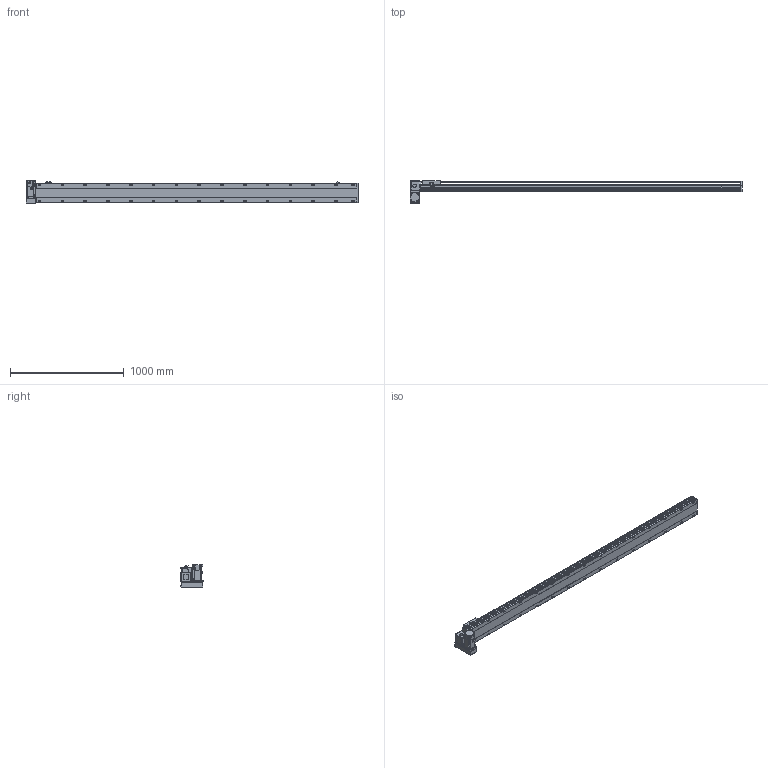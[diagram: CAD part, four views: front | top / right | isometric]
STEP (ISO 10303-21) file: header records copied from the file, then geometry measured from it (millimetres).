
FILE_DESCRIPTION( ( 'STEP AP214' ), '1' );
FILE_NAME( 'x:/temp/worker_4/temp/exporttempdir_2248_362_fAnEg/format_0/PBS170-P40-S2550-LD-T75-C1-N(0).stp', '2022-06-07T07:56:24', ( 'License CC BY-ND 4.0' ), ( 'CADENAS' ), ' ', 'PARTsolutions', ' ' );
FILE_SCHEMA( ( 'AUTOMOTIVE_DESIGN { 1 0 10303 214 1 1 1 1 }' ) );
Length unit declared in the file: millimetre
Products named in the file (7): PBS170-P40-S2550-LD-T75-C1-N(0); _PBS170-S2550()_body; _PBS170T-LD_motors; _T75-p1; _PBS170_sliser; _PBS170_plant; _PBS170_sensor
Assembly tree (8 placements, depth 2):
  PBS170-P40-S2550-LD-T75-C1-N(0)
    _PBS170-S2550()_body
    _PBS170T-LD_motors
    _T75-p1
    _PBS170_sliser
    _PBS170_plant
    _PBS170_sensor  x3
Bounding box: 2913 x 201 x 197.3 mm (x, y, z)
Volume: 22035219.2 mm3; surface area: 2772426.8 mm2
Topology: 8 solids, 8 shells, 1194 faces, 3155 edges, 2056 vertices
Faces by surface type: plane 729, cylinder 395, cone 60, sphere 8, torus 2
Full cylindrical faces by diameter (mm): 3.242 x4, 4 x2, 4.4 x4, 4.5 x6, 4.917 x4, 6 x9, 6.647 x38, 7 x2, 7.5 x4, 8 x8, 8.5 x30, 10 x4, 10.5 x30, 11 x2, 30 x2, 40 x1, 70 x1
Entity records: 44234 total; most frequent: CARTESIAN_POINT 7397, DIRECTION 5790, ORIENTED_EDGE 5448, EDGE_CURVE 2724, AXIS2_PLACEMENT_3D 2047, VERTEX_POINT 1898, LINE 1696, VECTOR 1696
